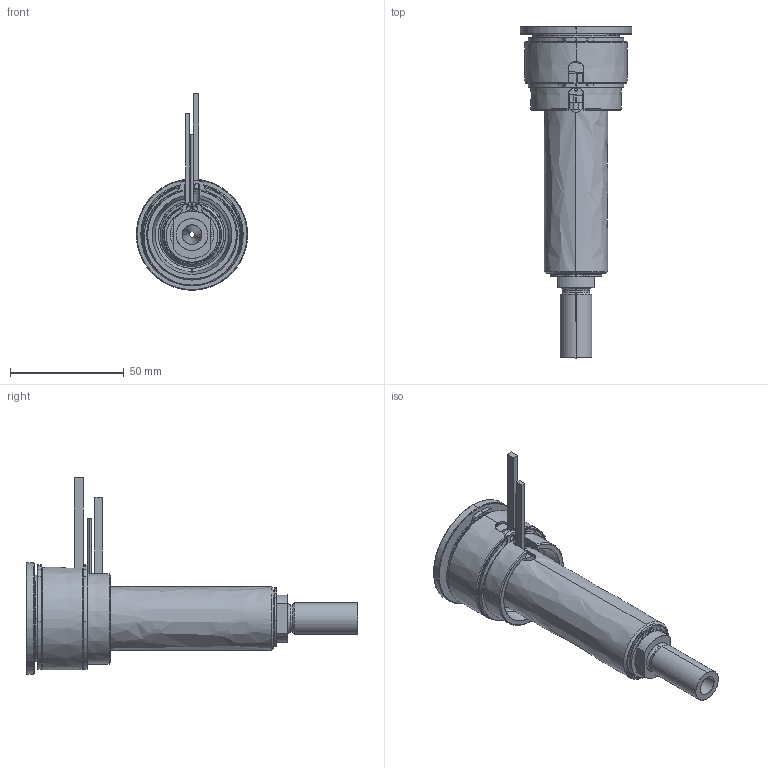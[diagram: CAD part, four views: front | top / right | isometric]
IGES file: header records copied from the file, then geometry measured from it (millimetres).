
Start section: SolidWorks IGES file using analytic representation for surfaces
Global section: file name: C:\Documents and Settings\ws-20\Desktop\TEM\UGBE4502-S-A-P-5 [Ød-2.5 P-25 ØC-10].IGS; native system: SolidWorks 2012; preprocessor: SolidWorks 2012; author: ws-20; date: 120412.154536; units: millimetre
Bounding box: 49 x 146 x 86.5 mm (x, y, z)
Surface area: 49866.9 mm2 (no closed solid volume)
Topology: 0 solids, 0 shells, 168 faces, 3209 edges, 3209 vertices
Faces by surface type: revolution 106, bspline 62
